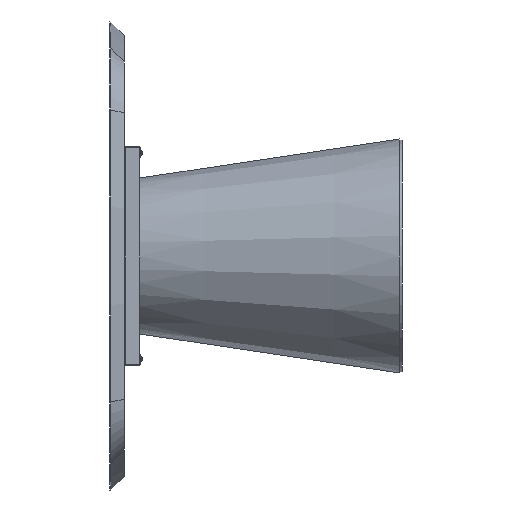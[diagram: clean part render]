
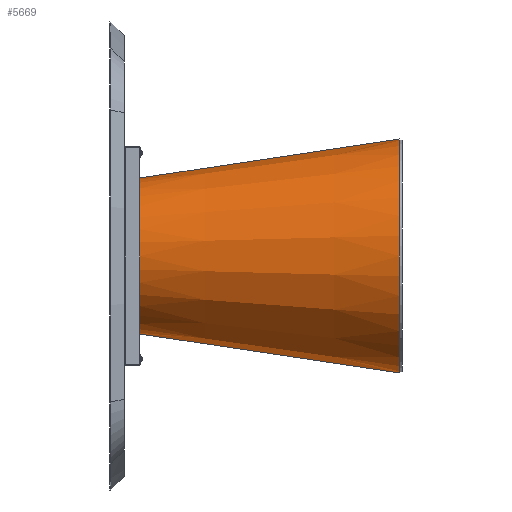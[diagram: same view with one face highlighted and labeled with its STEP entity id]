
A CAD part, left-side view. The second image highlights one B-rep face of the part: STEP entity #5669.
In plain terms, the highlighted conical face has half-angle 8.552 degrees and reference radius 200 mm.
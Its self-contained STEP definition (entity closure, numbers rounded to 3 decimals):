
#178 = DIRECTION ( 'NONE',  ( 0., -0.989, -0.149 ) ) ;
#194 = VERTEX_POINT ( 'NONE', #8313 ) ;
#837 = VERTEX_POINT ( 'NONE', #9578 ) ;
#1683 = AXIS2_PLACEMENT_3D ( 'NONE', #11817, #4450, #2046 ) ;
#1806 = EDGE_CURVE ( 'NONE', #5782, #194, #4171, .T. ) ;
#1890 = CIRCLE ( 'NONE', #11871, 200. ) ;
#2046 = DIRECTION ( 'NONE',  ( 0., 0., -1. ) ) ;
#2316 = EDGE_CURVE ( 'NONE', #5782, #7754, #1890, .T. ) ;
#4171 = LINE ( 'NONE', #8823, #12899 ) ;
#4450 = DIRECTION ( 'NONE',  ( 0., -1., 0. ) ) ;
#4751 = ORIENTED_EDGE ( 'NONE', *, *, #15393, .F. ) ;
#5532 = ORIENTED_EDGE ( 'NONE', *, *, #11443, .T. ) ;
#5585 = DIRECTION ( 'NONE',  ( 0., 0., 1. ) ) ;
#5669 = ADVANCED_FACE ( 'NONE', ( #15250 ), #5799, .T. ) ;
#5782 = VERTEX_POINT ( 'NONE', #15335 ) ;
#5799 = CONICAL_SURFACE ( 'NONE', #1683, 200., 0.149 ) ;
#6031 = LINE ( 'NONE', #10831, #9003 ) ;
#6904 = DIRECTION ( 'NONE',  ( 0., -0.989, 0.149 ) ) ;
#7562 = DIRECTION ( 'NONE',  ( 0., 0., 1. ) ) ;
#7642 = CARTESIAN_POINT ( 'NONE',  ( 0., 8., 0. ) ) ;
#7702 = CIRCLE ( 'NONE', #15095, 300. ) ;
#7754 = VERTEX_POINT ( 'NONE', #10249 ) ;
#7899 = DIRECTION ( 'NONE',  ( 0., 1., 0. ) ) ;
#8313 = CARTESIAN_POINT ( 'NONE',  ( 0., 8., -300. ) ) ;
#8823 = CARTESIAN_POINT ( 'NONE',  ( 0., 673., -200. ) ) ;
#9003 = VECTOR ( 'NONE', #6904, 1000. ) ;
#9578 = CARTESIAN_POINT ( 'NONE',  ( 0., 8., 300. ) ) ;
#10249 = CARTESIAN_POINT ( 'NONE',  ( 0., 673., 200. ) ) ;
#10831 = CARTESIAN_POINT ( 'NONE',  ( 0., 673., 200. ) ) ;
#11443 = EDGE_CURVE ( 'NONE', #194, #837, #7702, .T. ) ;
#11759 = ORIENTED_EDGE ( 'NONE', *, *, #2316, .F. ) ;
#11817 = CARTESIAN_POINT ( 'NONE',  ( 0., 673., 0. ) ) ;
#11871 = AXIS2_PLACEMENT_3D ( 'NONE', #14047, #7899, #5585 ) ;
#12899 = VECTOR ( 'NONE', #178, 1000. ) ;
#13299 = EDGE_LOOP ( 'NONE', ( #4751, #11759, #14830, #5532 ) ) ;
#14047 = CARTESIAN_POINT ( 'NONE',  ( 0., 673., 0. ) ) ;
#14830 = ORIENTED_EDGE ( 'NONE', *, *, #1806, .T. ) ;
#15095 = AXIS2_PLACEMENT_3D ( 'NONE', #7642, #15224, #7562 ) ;
#15224 = DIRECTION ( 'NONE',  ( 0., 1., 0. ) ) ;
#15250 = FACE_OUTER_BOUND ( 'NONE', #13299, .T. ) ;
#15335 = CARTESIAN_POINT ( 'NONE',  ( 0., 673., -200. ) ) ;
#15393 = EDGE_CURVE ( 'NONE', #7754, #837, #6031, .T. ) ;
